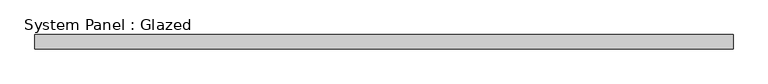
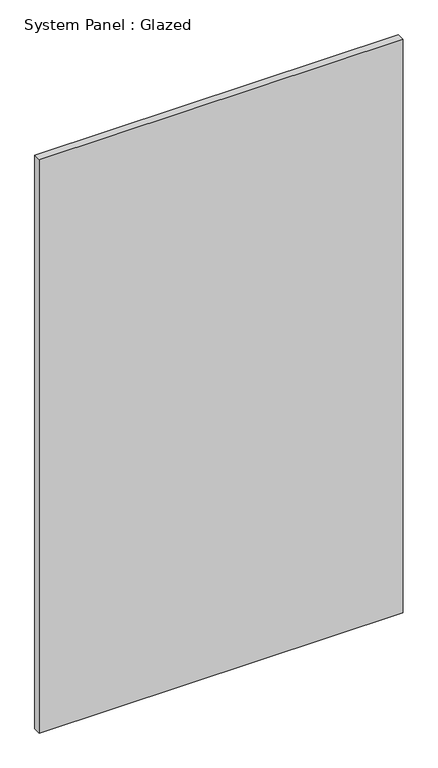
"""IFC4 building model written with IfcOpenShell, lengths in millimetres: plate geometry, System Panel : Glazed."""

from ifc_helpers import new_model, si_unit, origin, origin_with_axes, place, context, project, spatial, polyline, outline, extrude, source, transform, mapped, element, save


def system_panel_glazed_5f4b9808(model_context):
    return source(origin(), model_context, "Body", "SweptSolid", [
        extrude(outline(polyline([(618.17875, 24.5), (-618.17875, 24.5), (-618.17875, 49.5), (618.17875, 49.5), (618.17875, 24.5)])), origin_with_axes(), (0.0, 0.0, 1.0), 2058.6),
    ])


if __name__ == "__main__":
    model = new_model("IFC4")
    model_context = context("Model", 3, world=origin())
    ifc_project = project(units=[si_unit("LENGTHUNIT", "METRE", prefix="MILLI")], contexts=[model_context])
    site = spatial("IfcSite", under=ifc_project)
    building = spatial("IfcBuilding", under=site)
    placement = place(None, origin())
    system_panel_glazed_shape = system_panel_glazed_5f4b9808(model_context)
    element("IfcPlate", 1, ObjectType="System Panel : Glazed", at=placement, inside=building, context=model_context, shape_type="MappedRepresentation", body=[
        mapped(system_panel_glazed_shape, transform((0.0, 0.0, 0.0), x_axis=(1.0, 0.0, 0.0), y_axis=(0.0, 1.0, 0.0), z_axis=(0.0, 0.0, 1.0))),
    ])
    save(model, "model.ifc")
